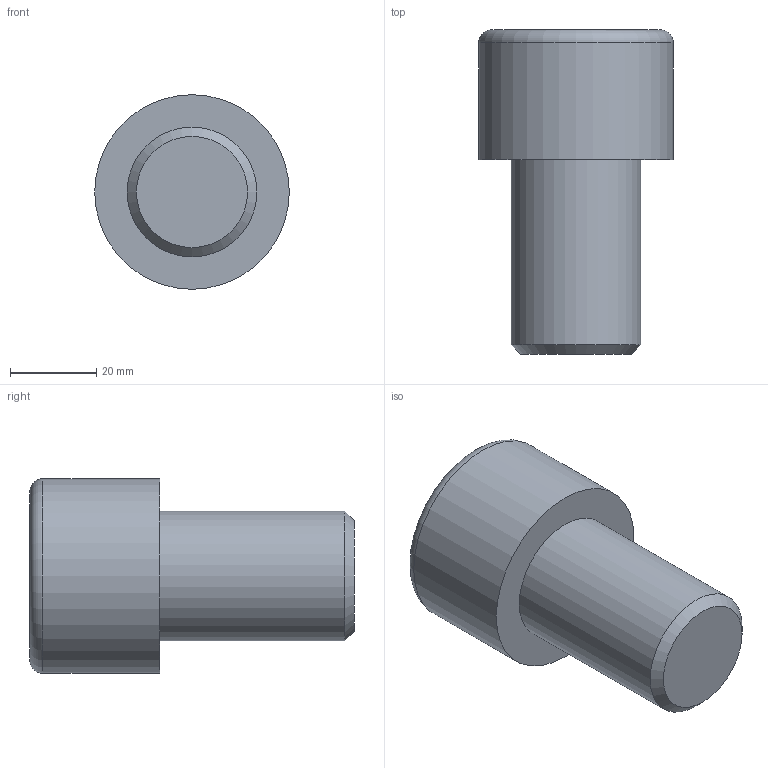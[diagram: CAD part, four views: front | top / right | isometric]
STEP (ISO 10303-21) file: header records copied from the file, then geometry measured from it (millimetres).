
FILE_DESCRIPTION(/* description */ (''),/* implementation_level */ '2;1');
FILE_NAME(/* name */ 'C:\Users\D\Documents\Inventor\各種小物\JIS\JIS B 1176 六角穴付きボルト\M30x45.stp',/* time_stamp */ '2022-05-09T19:02:05+09:00',/* author */ ('D'),/* organization */ (''),/* preprocessor_version */ 'ST-DEVELOPER v18',/* originating_system */ 'Autodesk Inventor 2020',/* authorisation */ '');
FILE_SCHEMA (('AUTOMOTIVE_DESIGN { 1 0 10303 214 3 1 1 }'));
Length unit declared in the file: millimetre
Products named in the file (1): M1.6x2.5
Bounding box: 45 x 75 x 45 mm (x, y, z)
Volume: 71347.3 mm3; surface area: 12647.7 mm2
Topology: 1 solids, 1 shells, 14 faces, 33 edges, 22 vertices
Faces by surface type: plane 9, cone 2, cylinder 2, torus 1
Full cylindrical faces by diameter (mm): 30 x1, 45 x1
Entity records: 435 total; most frequent: CARTESIAN_POINT 83, ORIENTED_EDGE 64, DIRECTION 64, EDGE_CURVE 32, AXIS2_PLACEMENT_3D 24, VERTEX_POINT 22, EDGE_LOOP 16, LINE 16
